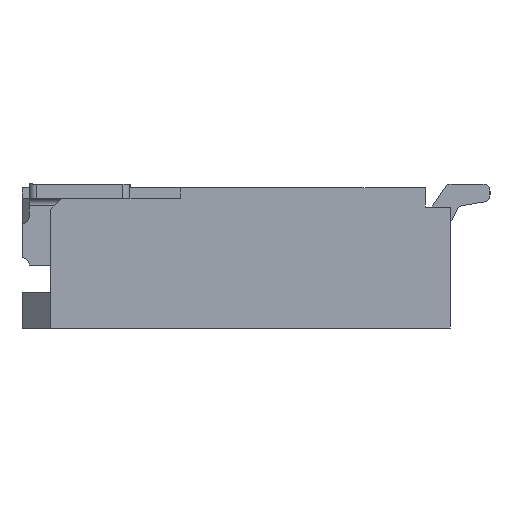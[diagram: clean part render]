
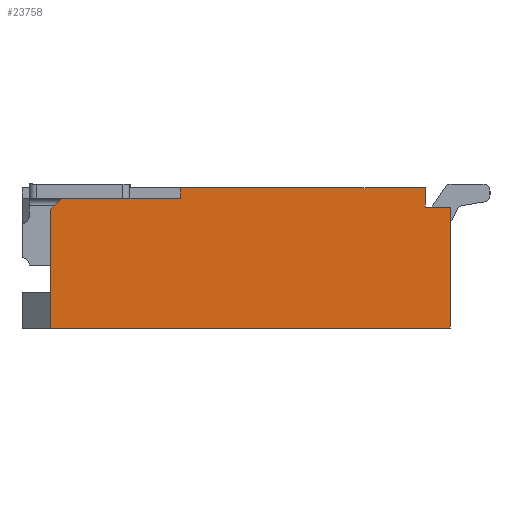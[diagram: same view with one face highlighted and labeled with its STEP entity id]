
A CAD part, left-side view. The second image highlights one B-rep face of the part: STEP entity #23758.
In plain terms, the highlighted planar face has unit normal (-1, 0, 0).
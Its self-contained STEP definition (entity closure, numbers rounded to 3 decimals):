
#13=DIRECTION('',(0.,1.,0.));
#14=VECTOR('',#13,5.55);
#15=CARTESIAN_POINT('',(3.2,-5.95,0.));
#16=LINE('',#15,#14);
#4461=DIRECTION('',(0.,-1.,0.));
#4462=VECTOR('',#4461,3.4);
#4463=CARTESIAN_POINT('',(3.2,-2.2,1.95));
#4464=LINE('',#4463,#4462);
#4481=DIRECTION('',(0.,0.,-1.));
#4482=VECTOR('',#4481,0.27);
#4483=CARTESIAN_POINT('',(3.2,-5.6,1.95));
#4484=LINE('',#4483,#4482);
#4745=DIRECTION('',(0.,0.,-1.));
#4746=VECTOR('',#4745,1.68);
#4747=CARTESIAN_POINT('',(3.2,-5.95,1.68));
#4748=LINE('',#4747,#4746);
#4977=DIRECTION('',(0.,0.,-1.));
#4978=VECTOR('',#4977,0.15);
#4979=CARTESIAN_POINT('',(3.2,-2.2,1.95));
#4980=LINE('',#4979,#4978);
#4981=DIRECTION('',(0.,1.,0.));
#4982=VECTOR('',#4981,0.35);
#4983=CARTESIAN_POINT('',(3.2,-5.95,1.68));
#4984=LINE('',#4983,#4982);
#4985=DIRECTION('',(0.,0.,-1.));
#4986=VECTOR('',#4985,1.65);
#4987=CARTESIAN_POINT('',(3.2,-0.4,1.65));
#4988=LINE('',#4987,#4986);
#4989=DIRECTION('',(0.,0.707,-0.707));
#4990=VECTOR('',#4989,0.212);
#4991=CARTESIAN_POINT('',(3.2,-0.55,1.8));
#4992=LINE('',#4991,#4990);
#5011=DIRECTION('',(0.,-1.,0.));
#5012=VECTOR('',#5011,0.95);
#5013=CARTESIAN_POINT('',(3.2,-0.55,1.8));
#5014=LINE('',#5013,#5012);
#6441=DIRECTION('',(0.,-1.,0.));
#6442=VECTOR('',#6441,0.7);
#6443=CARTESIAN_POINT('',(3.2,-1.5,1.8));
#6444=LINE('',#6443,#6442);
#15275=CARTESIAN_POINT('',(3.2,-5.95,0.));
#15276=CARTESIAN_POINT('',(3.2,-0.4,0.));
#15277=VERTEX_POINT('',#15275);
#15278=VERTEX_POINT('',#15276);
#15329=CARTESIAN_POINT('',(3.2,-5.95,1.68));
#15330=VERTEX_POINT('',#15329);
#15357=CARTESIAN_POINT('',(3.2,-5.6,1.68));
#15358=VERTEX_POINT('',#15357);
#15393=CARTESIAN_POINT('',(3.2,-5.6,1.95));
#15394=VERTEX_POINT('',#15393);
#15399=CARTESIAN_POINT('',(3.2,-2.2,1.95));
#15400=VERTEX_POINT('',#15399);
#16040=CARTESIAN_POINT('',(3.2,-0.4,1.65));
#16042=VERTEX_POINT('',#16040);
#16052=CARTESIAN_POINT('',(3.2,-0.55,1.8));
#16054=VERTEX_POINT('',#16052);
#16062=CARTESIAN_POINT('',(3.2,-2.2,1.8));
#16063=VERTEX_POINT('',#16062);
#16586=CARTESIAN_POINT('',(3.2,-1.5,1.8));
#16587=VERTEX_POINT('',#16586);
#23736=CARTESIAN_POINT('',(3.2,0.,0.));
#23737=DIRECTION('',(1.,0.,0.));
#23738=DIRECTION('',(0.,-1.,0.));
#23739=AXIS2_PLACEMENT_3D('',#23736,#23737,#23738);
#23740=PLANE('',#23739);
#23742=ORIENTED_EDGE('',*,*,#23741,.T.);
#23744=ORIENTED_EDGE('',*,*,#23743,.T.);
#23746=ORIENTED_EDGE('',*,*,#23745,.F.);
#23747=ORIENTED_EDGE('',*,*,#23226,.T.);
#23748=ORIENTED_EDGE('',*,*,#23249,.T.);
#23749=ORIENTED_EDGE('',*,*,#23384,.F.);
#23750=ORIENTED_EDGE('',*,*,#23518,.T.);
#23751=ORIENTED_EDGE('',*,*,#17412,.T.);
#23753=ORIENTED_EDGE('',*,*,#23752,.F.);
#23755=ORIENTED_EDGE('',*,*,#23754,.F.);
#23756=EDGE_LOOP('',(#23742,#23744,#23746,#23747,#23748,#23749,#23750,#23751,
#23753,#23755));
#23757=FACE_OUTER_BOUND('',#23756,.F.);
#17412=EDGE_CURVE('',#15277,#15278,#16,.T.);
#23226=EDGE_CURVE('',#15400,#15394,#4464,.T.);
#23249=EDGE_CURVE('',#15394,#15358,#4484,.T.);
#23384=EDGE_CURVE('',#15330,#15358,#4984,.T.);
#23518=EDGE_CURVE('',#15330,#15277,#4748,.T.);
#23741=EDGE_CURVE('',#16054,#16587,#5014,.T.);
#23743=EDGE_CURVE('',#16587,#16063,#6444,.T.);
#23745=EDGE_CURVE('',#15400,#16063,#4980,.T.);
#23752=EDGE_CURVE('',#16042,#15278,#4988,.T.);
#23754=EDGE_CURVE('',#16054,#16042,#4992,.T.);
#23758=ADVANCED_FACE('',(#23757),#23740,.F.);
